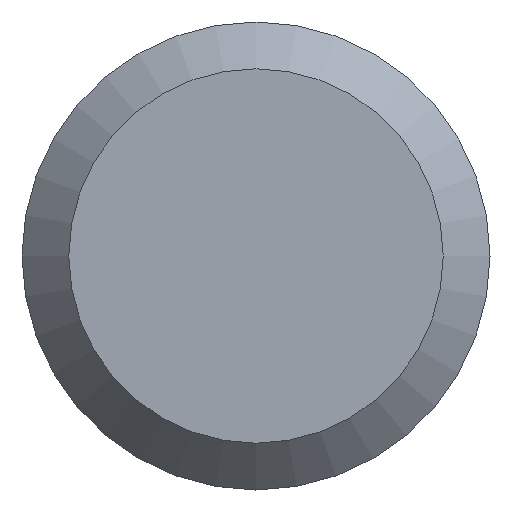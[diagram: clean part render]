
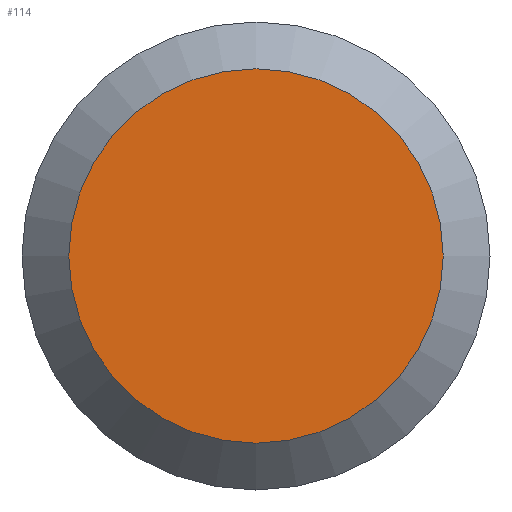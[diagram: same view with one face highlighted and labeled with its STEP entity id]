
A CAD part, left-side view. The second image highlights one B-rep face of the part: STEP entity #114.
In plain terms, the highlighted planar face has unit normal (-1, 0, 0).
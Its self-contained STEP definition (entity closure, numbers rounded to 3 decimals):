
#4 = EDGE_CURVE ( 'NONE', #45, #45, #32, .T. ) ;
#32 = CIRCLE ( 'NONE', #54, 6.4 ) ;
#37 = DIRECTION ( 'NONE',  ( -1., 0., 0. ) ) ;
#40 = AXIS2_PLACEMENT_3D ( 'NONE', #184, #200, #112 ) ;
#45 = VERTEX_POINT ( 'NONE', #168 ) ;
#47 = DIRECTION ( 'NONE',  ( 0., 0., -1. ) ) ;
#49 = FACE_OUTER_BOUND ( 'NONE', #117, .T. ) ;
#51 = CARTESIAN_POINT ( 'NONE',  ( 0., 0., 0. ) ) ;
#54 = AXIS2_PLACEMENT_3D ( 'NONE', #51, #37, #47 ) ;
#106 = PLANE ( 'NONE',  #40 ) ;
#112 = DIRECTION ( 'NONE',  ( 0., 0., -1. ) ) ;
#114 = ADVANCED_FACE ( 'NONE', ( #49 ), #106, .F. ) ;
#117 = EDGE_LOOP ( 'NONE', ( #163 ) ) ;
#163 = ORIENTED_EDGE ( 'NONE', *, *, #4, .T. ) ;
#168 = CARTESIAN_POINT ( 'NONE',  ( 0., 0., -6.4 ) ) ;
#184 = CARTESIAN_POINT ( 'NONE',  ( 0., 8., 0. ) ) ;
#200 = DIRECTION ( 'NONE',  ( 1., 0., 0. ) ) ;
